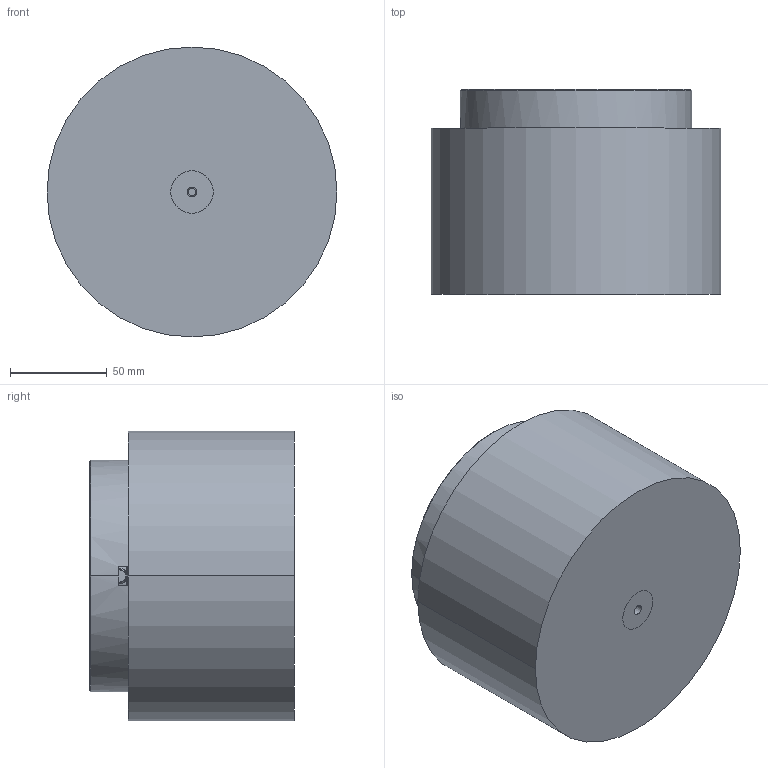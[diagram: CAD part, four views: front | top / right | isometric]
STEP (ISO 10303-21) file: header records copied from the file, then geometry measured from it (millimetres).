
FILE_DESCRIPTION((''),'2;1');
FILE_NAME('S54C101.stp','2020-09-19T08:45:19',(''),(''),'AutoCAD STEP 2000i','AutoCAD 2000i',', , ');
FILE_SCHEMA(('CONFIG_CONTROL_DESIGN'));
Length unit declared in the file: millimetre
Products named in the file (4): DRAWING1; MOLS BODY C 54; NOZZLE S102C54; RING 54-2018
Assembly tree (3 placements, depth 2):
  DRAWING1
    MOLS BODY C 54
    NOZZLE S102C54
    RING 54-2018
Bounding box: 150 x 106 x 150 mm (x, y, z)
Volume: 1710148.8 mm3; surface area: 138827 mm2
Topology: 3 solids, 3 shells, 143 faces, 337 edges, 214 vertices
Faces by surface type: cylinder 60, cone 38, plane 27, torus 10, bspline 8
Entity records: 4655 total; most frequent: CARTESIAN_POINT 1055, DIRECTION 826, ORIENTED_EDGE 670, AXIS2_PLACEMENT_3D 359, EDGE_CURVE 335, CIRCLE 220, VERTEX_POINT 214, EDGE_LOOP 171
